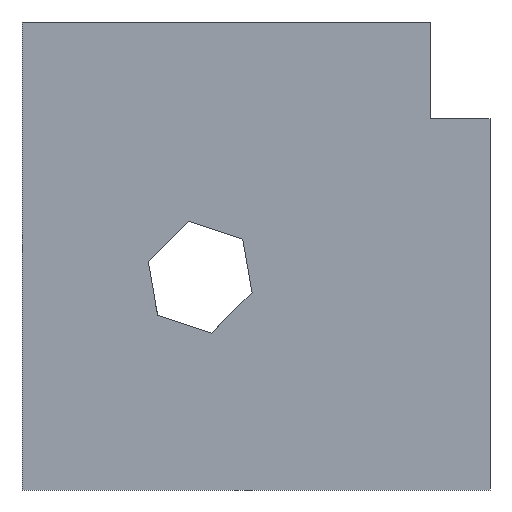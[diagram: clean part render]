
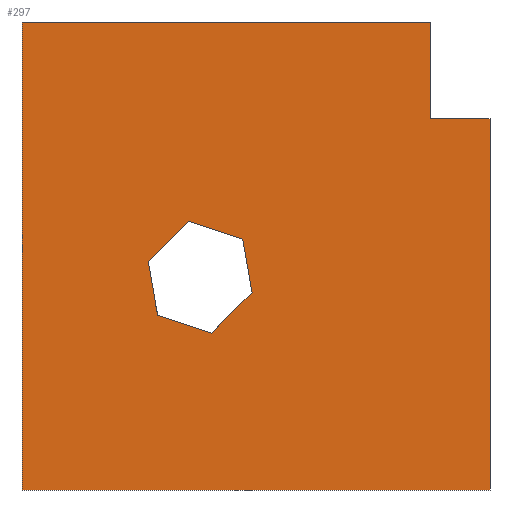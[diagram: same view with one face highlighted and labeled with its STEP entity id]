
A CAD part, front view. The second image highlights one B-rep face of the part: STEP entity #297.
In plain terms, the highlighted planar face has unit normal (0, -1, 0).
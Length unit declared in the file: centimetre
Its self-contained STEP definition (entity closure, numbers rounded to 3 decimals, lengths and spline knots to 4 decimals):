
#10 = CARTESIAN_POINT ( 'NONE',  ( 0., 0., 1000. ) ) ;
#30 = VERTEX_POINT ( 'NONE', #847 ) ;
#47 = EDGE_CURVE ( 'NONE', #418, #646, #850, .T. ) ;
#67 = EDGE_CURVE ( 'NONE', #898, #542, #85, .T. ) ;
#68 = DIRECTION ( 'NONE',  ( 1., 0., 0. ) ) ;
#70 = LINE ( 'NONE', #762, #526 ) ;
#72 = EDGE_CURVE ( 'NONE', #766, #735, #535, .T. ) ;
#75 = VECTOR ( 'NONE', #682, 100. ) ;
#78 = VECTOR ( 'NONE', #389, 100. ) ;
#80 = VERTEX_POINT ( 'NONE', #859 ) ;
#84 = LINE ( 'NONE', #625, #78 ) ;
#85 = LINE ( 'NONE', #10, #75 ) ;
#87 = DIRECTION ( 'NONE',  ( 0.171, 0., -0.985 ) ) ;
#88 = CARTESIAN_POINT ( 'NONE',  ( 289.6604, 0., 373.5866 ) ) ;
#90 = VECTOR ( 'NONE', #430, 100. ) ;
#98 = DIRECTION ( 'NONE',  ( -0.171, 0., 0.985 ) ) ;
#100 = CARTESIAN_POINT ( 'NONE',  ( 269.7984, 0., 488.0711 ) ) ;
#104 = EDGE_CURVE ( 'NONE', #80, #344, #540, .T. ) ;
#119 = CARTESIAN_POINT ( 'NONE',  ( 1000., 0., 793.3542 ) ) ;
#121 = ORIENTED_EDGE ( 'NONE', *, *, #47, .F. ) ;
#137 = LINE ( 'NONE', #270, #90 ) ;
#141 = DIRECTION ( 'NONE',  ( 0., 0., 1. ) ) ;
#159 = ORIENTED_EDGE ( 'NONE', *, *, #450, .F. ) ;
#164 = CARTESIAN_POINT ( 'NONE',  ( 289.6604, 0., 373.5866 ) ) ;
#168 = VECTOR ( 'NONE', #775, 100. ) ;
#178 = VERTEX_POINT ( 'NONE', #799 ) ;
#230 = CARTESIAN_POINT ( 'NONE',  ( 405.4642, 0., 335.3477 ) ) ;
#247 = VECTOR ( 'NONE', #782, 100. ) ;
#262 = CARTESIAN_POINT ( 'NONE',  ( 0., 0., 1000. ) ) ;
#270 = CARTESIAN_POINT ( 'NONE',  ( 471.696, 0., 535.9259 ) ) ;
#295 = EDGE_CURVE ( 'NONE', #898, #80, #70, .T. ) ;
#297 = ADVANCED_FACE ( 'NONE', ( #520, #377 ), #993, .F. ) ;
#311 = AXIS2_PLACEMENT_3D ( 'NONE', #677, #835, #141 ) ;
#336 = EDGE_CURVE ( 'NONE', #735, #30, #886, .T. ) ;
#344 = VERTEX_POINT ( 'NONE', #905 ) ;
#351 = EDGE_LOOP ( 'NONE', ( #937, #159, #550, #723, #585, #480 ) ) ;
#363 = DIRECTION ( 'NONE',  ( 1., 0., 0. ) ) ;
#377 = FACE_OUTER_BOUND ( 'NONE', #351, .T. ) ;
#385 = VERTEX_POINT ( 'NONE', #667 ) ;
#386 = EDGE_CURVE ( 'NONE', #385, #418, #137, .T. ) ;
#389 = DIRECTION ( 'NONE',  ( 1., 0., 0. ) ) ;
#409 = DIRECTION ( 'NONE',  ( 0., 0., -1. ) ) ;
#418 = VERTEX_POINT ( 'NONE', #895 ) ;
#430 = DIRECTION ( 'NONE',  ( -0.95, 0., 0.314 ) ) ;
#439 = ORIENTED_EDGE ( 'NONE', *, *, #336, .F. ) ;
#450 = EDGE_CURVE ( 'NONE', #344, #968, #830, .T. ) ;
#480 = ORIENTED_EDGE ( 'NONE', *, *, #863, .T. ) ;
#506 = DIRECTION ( 'NONE',  ( 0.707, 0., 0.707 ) ) ;
#520 = FACE_BOUND ( 'NONE', #530, .T. ) ;
#526 = VECTOR ( 'NONE', #68, 100. ) ;
#530 = EDGE_LOOP ( 'NONE', ( #546, #643, #439, #618, #813, #121 ) ) ;
#535 = LINE ( 'NONE', #88, #769 ) ;
#540 = LINE ( 'NONE', #991, #168 ) ;
#542 = VERTEX_POINT ( 'NONE', #745 ) ;
#546 = ORIENTED_EDGE ( 'NONE', *, *, #386, .F. ) ;
#548 = DIRECTION ( 'NONE',  ( 0.95, 0., -0.314 ) ) ;
#550 = ORIENTED_EDGE ( 'NONE', *, *, #104, .F. ) ;
#580 = CARTESIAN_POINT ( 'NONE',  ( 405.4642, 0., 335.3477 ) ) ;
#585 = ORIENTED_EDGE ( 'NONE', *, *, #67, .T. ) ;
#618 = ORIENTED_EDGE ( 'NONE', *, *, #72, .F. ) ;
#622 = CARTESIAN_POINT ( 'NONE',  ( 355.8921, 0., 574.1648 ) ) ;
#625 = CARTESIAN_POINT ( 'NONE',  ( 0., 0., 0. ) ) ;
#633 = VECTOR ( 'NONE', #363, 100. ) ;
#643 = ORIENTED_EDGE ( 'NONE', *, *, #923, .F. ) ;
#646 = VERTEX_POINT ( 'NONE', #100 ) ;
#667 = CARTESIAN_POINT ( 'NONE',  ( 471.696, 0., 535.9259 ) ) ;
#670 = VECTOR ( 'NONE', #506, 100. ) ;
#677 = CARTESIAN_POINT ( 'NONE',  ( 0., 0., 1000. ) ) ;
#682 = DIRECTION ( 'NONE',  ( 0., 0., -1. ) ) ;
#699 = LINE ( 'NONE', #994, #828 ) ;
#723 = ORIENTED_EDGE ( 'NONE', *, *, #295, .F. ) ;
#735 = VERTEX_POINT ( 'NONE', #230 ) ;
#737 = CARTESIAN_POINT ( 'NONE',  ( 1000., 0., 1000. ) ) ;
#745 = CARTESIAN_POINT ( 'NONE',  ( 0., 0., 0. ) ) ;
#747 = CARTESIAN_POINT ( 'NONE',  ( 872.0802, 0., 793.3542 ) ) ;
#762 = CARTESIAN_POINT ( 'NONE',  ( 0., 0., 1000. ) ) ;
#764 = EDGE_CURVE ( 'NONE', #646, #766, #699, .T. ) ;
#766 = VERTEX_POINT ( 'NONE', #164 ) ;
#769 = VECTOR ( 'NONE', #548, 100. ) ;
#775 = DIRECTION ( 'NONE',  ( 0., 0., -1. ) ) ;
#782 = DIRECTION ( 'NONE',  ( -0.707, 0., -0.707 ) ) ;
#786 = VECTOR ( 'NONE', #409, 100. ) ;
#796 = LINE ( 'NONE', #737, #786 ) ;
#799 = CARTESIAN_POINT ( 'NONE',  ( 1000., 0., 0. ) ) ;
#802 = LINE ( 'NONE', #875, #909 ) ;
#813 = ORIENTED_EDGE ( 'NONE', *, *, #764, .F. ) ;
#828 = VECTOR ( 'NONE', #87, 100. ) ;
#830 = LINE ( 'NONE', #747, #633 ) ;
#835 = DIRECTION ( 'NONE',  ( 0., 1., 0. ) ) ;
#847 = CARTESIAN_POINT ( 'NONE',  ( 491.558, 0., 421.4414 ) ) ;
#850 = LINE ( 'NONE', #622, #247 ) ;
#859 = CARTESIAN_POINT ( 'NONE',  ( 872.0802, 0., 1000. ) ) ;
#863 = EDGE_CURVE ( 'NONE', #542, #178, #84, .T. ) ;
#875 = CARTESIAN_POINT ( 'NONE',  ( 491.558, 0., 421.4414 ) ) ;
#886 = LINE ( 'NONE', #580, #670 ) ;
#895 = CARTESIAN_POINT ( 'NONE',  ( 355.8921, 0., 574.1648 ) ) ;
#898 = VERTEX_POINT ( 'NONE', #262 ) ;
#905 = CARTESIAN_POINT ( 'NONE',  ( 872.0802, 0., 793.3542 ) ) ;
#909 = VECTOR ( 'NONE', #98, 100. ) ;
#923 = EDGE_CURVE ( 'NONE', #30, #385, #802, .T. ) ;
#936 = EDGE_CURVE ( 'NONE', #968, #178, #796, .T. ) ;
#937 = ORIENTED_EDGE ( 'NONE', *, *, #936, .F. ) ;
#968 = VERTEX_POINT ( 'NONE', #119 ) ;
#991 = CARTESIAN_POINT ( 'NONE',  ( 872.0802, 0., 793.3542 ) ) ;
#993 = PLANE ( 'NONE',  #311 ) ;
#994 = CARTESIAN_POINT ( 'NONE',  ( 269.7984, 0., 488.0711 ) ) ;
